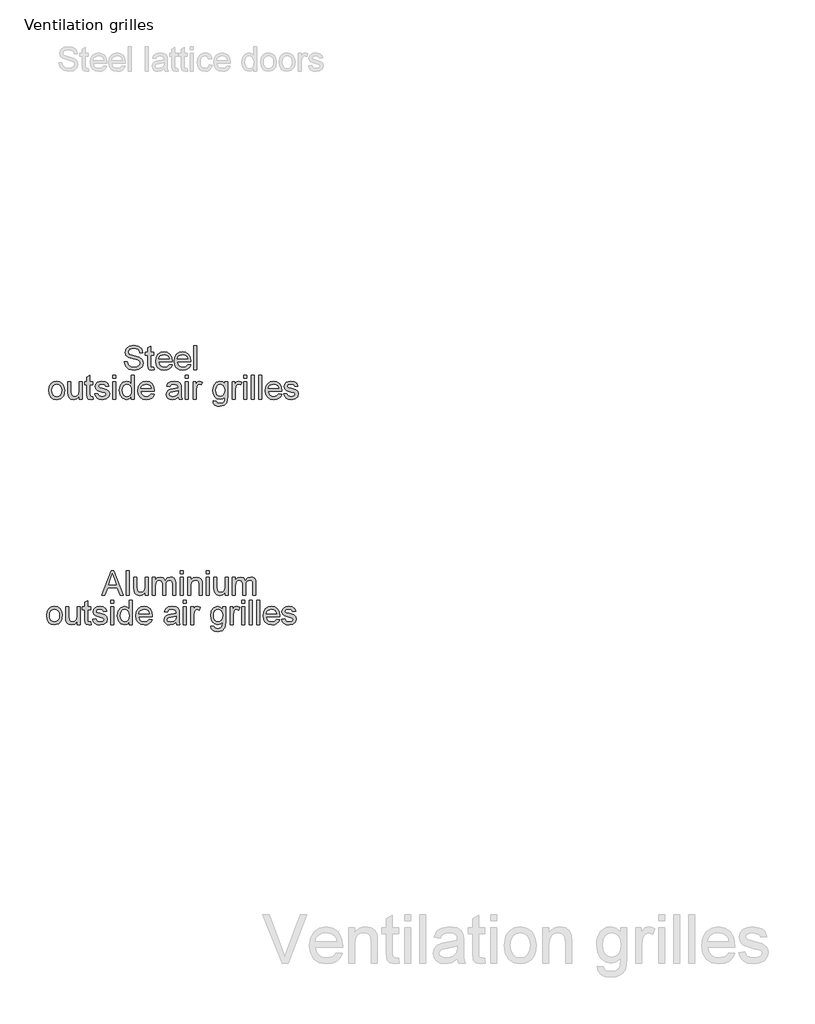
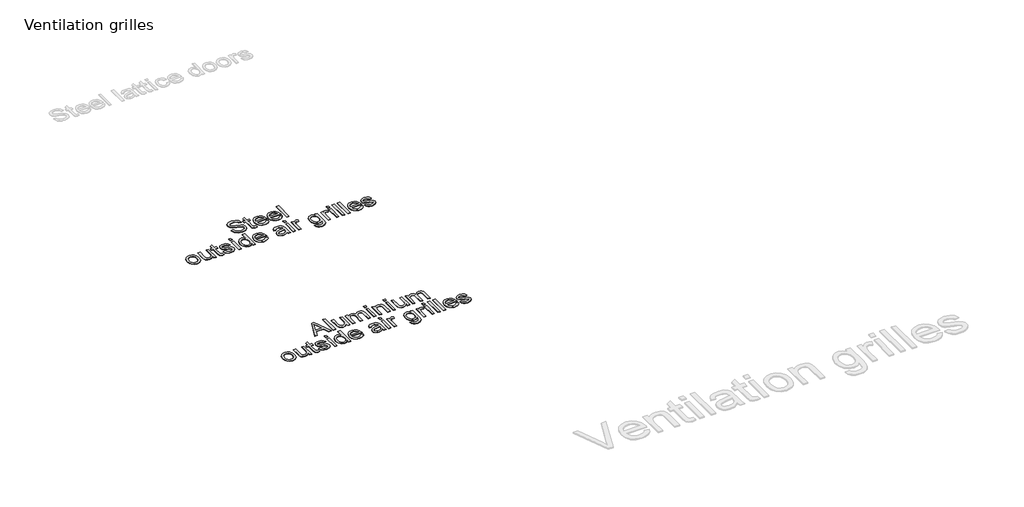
# One storey, part 2 of 10: 2 proxies.
"""IFC4 building model written with IfcOpenShell, lengths in millimetres."""

import ifcopenshell
import ifcopenshell.guid

model = None  # the IFC model being written
_history = None  # IfcOwnerHistory: only IFC2X3 demands one
_inside = {}  # id of a spatial element -> (the spatial element, [elements in it])
_under = {}  # id of a project, library or spatial element -> (it, [spatial elements below it])
_declared = {}  # id of a project -> (the project, [libraries it declares])
_typed = {}  # id of a type object -> (the type object, [elements of that type])
_made_of = {}  # id of a material, layer set ... -> (it, [elements and type objects made of it])


def new_model(schema):
    """Start an empty IFC model of exactly this schema.

    Asked for "IFC4X3", IfcOpenShell would pick the latest addendum, in which some entities
    have other attributes; the version numbers below select the first issue.
    IFC2X3 requires an IfcOwnerHistory on every rooted entity: one is made here for all.
    """
    global model, _history
    if schema == "IFC4X3":
        model = ifcopenshell.file(schema_version=(4, 3, 0, 0))
    else:
        model = ifcopenshell.file(schema=schema)
    _inside.clear()
    _under.clear()
    _declared.clear()
    _typed.clear()
    _made_of.clear()
    _history = None
    if model.schema == "IFC2X3":
        org = make("IfcOrganization", Name="unknown")
        user = make(
            "IfcPersonAndOrganization",
            ThePerson=make("IfcPerson", FamilyName="unknown"),
            TheOrganization=org,
        )
        app = make(
            "IfcApplication",
            ApplicationDeveloper=org,
            Version="unknown",
            ApplicationFullName="unknown",
            ApplicationIdentifier="unknown",
        )
        _history = make(
            "IfcOwnerHistory",
            OwningUser=user,
            OwningApplication=app,
            ChangeAction="ADDED",
            CreationDate=0,
        )
    return model


def make(cls, **values):
    """One entity of the class cls with the attributes given. An attribute that is None is left unset."""
    return model.create_entity(
        cls, **{name: value for name, value in values.items() if value is not None}
    )


def rooted(cls, **values):
    """An entity with a GlobalId (a new one), such as an element, a storey or a relation."""
    return make(cls, GlobalId=ifcopenshell.guid.new(), OwnerHistory=_history, **values)


def si_unit(unit_type, name, prefix=None):
    """IfcSIUnit, for example si_unit("LENGTHUNIT", "METRE", prefix="MILLI")."""
    return make("IfcSIUnit", UnitType=unit_type, Prefix=prefix, Name=name)


def assignment(units):
    """IfcUnitAssignment: the units of a project."""
    return None if units is None else make("IfcUnitAssignment", Units=units)


def point(xyz):
    """IfcCartesianPoint."""
    return None if xyz is None else make("IfcCartesianPoint", Coordinates=xyz)


def direction(xyz):
    """IfcDirection."""
    return None if xyz is None else make("IfcDirection", DirectionRatios=xyz)


def frame(location, z_axis=None, x_axis=None):
    """IfcAxis2Placement3D, a coordinate frame: its origin and axes. An axis left out is left unset."""
    return make(
        "IfcAxis2Placement3D",
        Location=point(location),
        Axis=direction(z_axis),
        RefDirection=direction(x_axis),
    )


def origin():
    """The frame at (0, 0, 0) with its axes left unset."""
    return frame((0.0, 0.0, 0.0))


def origin_with_axes():
    """The frame at (0, 0, 0) with the z axis (0, 0, 1) and the x axis (1, 0, 0) written out."""
    return frame((0.0, 0.0, 0.0), z_axis=(0.0, 0.0, 1.0), x_axis=(1.0, 0.0, 0.0))


def place(relative_to, where):
    """IfcLocalPlacement: puts the frame where relative to a parent placement (None: the world)."""
    return make(
        "IfcLocalPlacement", PlacementRelTo=relative_to, RelativePlacement=where
    )


def context(
    kind, dimensions, precision=None, world=None, true_north=None, identifier=None
):
    """IfcGeometricRepresentationContext, for example the 3D "Model" context."""
    return make(
        "IfcGeometricRepresentationContext",
        ContextIdentifier=identifier,
        ContextType=kind,
        CoordinateSpaceDimension=dimensions,
        Precision=precision,
        WorldCoordinateSystem=world,
        TrueNorth=true_north,
    )


def project(units=None, contexts=None):
    """IfcProject with its units and contexts."""
    return rooted(
        "IfcProject",
        Name="project",
        RepresentationContexts=contexts,
        UnitsInContext=assignment(units),
    )


def spatial(cls, under=None, at=None, **own):
    """A site, building, storey or space (cls), placed at a placement, below another one or the project."""
    s = rooted(cls, ObjectPlacement=at, **own)
    if under is not None:
        _under.setdefault(under.id(), (under, []))[1].append(s)
    return s


def polyline(points):
    """IfcPolyline through the points."""
    return make("IfcPolyline", Points=[point(p) for p in points])


def outline(outer, holes=None, kind="AREA"):
    """IfcArbitraryClosedProfileDef: a profile drawn as a closed curve; with holes, ...WithVoids."""
    if holes is None:
        return make("IfcArbitraryClosedProfileDef", ProfileType=kind, OuterCurve=outer)
    return make(
        "IfcArbitraryProfileDefWithVoids",
        ProfileType=kind,
        OuterCurve=outer,
        InnerCurves=holes,
    )


def extrude(swept, where, along, depth):
    """IfcExtrudedAreaSolid: the profile swept, set in the frame where, extruded along a direction by depth."""
    return make(
        "IfcExtrudedAreaSolid",
        SweptArea=swept,
        Position=where,
        ExtrudedDirection=direction(along),
        Depth=depth,
    )


def shape(context_of_items, identifier, shape_type, items):
    """IfcShapeRepresentation: the items that make up one representation, for example the "Body"."""
    return make(
        "IfcShapeRepresentation",
        ContextOfItems=context_of_items,
        RepresentationIdentifier=identifier,
        RepresentationType=shape_type,
        Items=items,
    )


def made_of(thing, what):
    """Note that an element or type object is made of a material, layer set ...; save() writes the relation."""
    if what is not None:
        _made_of.setdefault(what.id(), (what, []))[1].append(thing)
    return thing


def element(
    cls,
    number,
    at=None,
    inside=None,
    cuts=None,
    type_object=None,
    material=None,
    context=None,
    identifier="Body",
    shape_type=None,
    held_by="IfcProductDefinitionShape",
    body=None,
    shapes=None,
    **own,
):
    """One element of the class cls, such as IfcWall. Its Tag is "e" and its number.

    at: its placement. inside: the storey or other place that contains it. cuts: it is an
    opening in that element (IfcRelVoidsElement). A single representation is given by context,
    identifier, shape_type and body (its items); several are given by shapes. held_by: the class
    of the entity that holds the representations. save() writes the other relations.
    """
    e = rooted(cls, Tag="e%d" % number, ObjectPlacement=at, **own)
    if body is not None:
        shapes = [shape(context, identifier, shape_type, body)]
    if shapes is not None:
        e.Representation = make(held_by, Representations=shapes)
    if inside is not None:
        _inside.setdefault(inside.id(), (inside, []))[1].append(e)
    if cuts is not None:
        rooted(
            "IfcRelVoidsElement", RelatingBuildingElement=cuts, RelatedOpeningElement=e
        )
    if type_object is not None:
        _typed.setdefault(type_object.id(), (type_object, []))[1].append(e)
    return made_of(e, material)


def aggregate(whole, parts):
    """IfcRelAggregates: a whole, such as a stair, and the parts it consists of."""
    return rooted("IfcRelAggregates", RelatingObject=whole, RelatedObjects=parts)


def save(model, path):
    """Write the relations noted so far, then the file.

    IfcRelAggregates (storeys below a building ...), IfcRelContainedInSpatialStructure (elements
    in a storey), IfcRelDefinesByType, IfcRelAssociatesMaterial and IfcRelDeclares: one each for
    every whole, place, type object, material and project.
    """
    for whole, parts in _under.values():
        aggregate(whole, parts)
    for where, things in _inside.values():
        rooted(
            "IfcRelContainedInSpatialStructure",
            RelatedElements=things,
            RelatingStructure=where,
        )
    for kind, things in _typed.values():
        rooted("IfcRelDefinesByType", RelatedObjects=things, RelatingType=kind)
    for what, things in _made_of.values():
        rooted("IfcRelAssociatesMaterial", RelatedObjects=things, RelatingMaterial=what)
    for by, libraries in _declared.values():
        rooted("IfcRelDeclares", RelatingContext=by, RelatedDefinitions=libraries)
    model.write(path)


model = new_model("IFC4")

# Units and contexts
model_context = context("Model", 3, world=origin())
ifc_project = project(units=[si_unit("LENGTHUNIT", "METRE", prefix="MILLI")], contexts=[model_context])

# Site, building, storey
site = spatial("IfcSite", under=ifc_project)
building = spatial("IfcBuilding", under=site)
storey = spatial("IfcBuildingStorey", under=building, Name="Ventilation grilles", Elevation=0.0)

# Proxies
placement = place(None, origin())
element("IfcBuildingElementProxy", 1, Name="100mm", ObjectType="100mm", at=placement, inside=storey, context=model_context, shape_type="SweptSolid", body=[
    extrude(outline(polyline([(-4721.748228, -14949.7732962), (-4681.6490906, -14849.3169861), (-4670.9559872, -14849.3169861), (-4630.8568498, -14949.7732962), (-4644.1251271, -14949.7732962), (-4655.6275708, -14918.3806993), (-4697.0020325, -14918.3806993), (-4708.4799507, -14949.7732962), (-4721.748228, -14949.7732962)]), holes=[polyline([(-4692.3912448, -14905.8236605), (-4660.213833, -14905.8236605), (-4669.2637301, -14881.1265159), (-4676.3025389, -14861.8740249), (-4682.5565328, -14878.9682749), (-4692.3912448, -14905.8236605)])]), origin_with_axes(), (0.0, 0.0, 1.0), 2.0),
    extrude(outline(polyline([(-4619.0110495, -14949.7732962), (-4619.0110495, -14849.3169861), (-4606.4540107, -14849.3169861), (-4606.4540107, -14949.7732962), (-4619.0110495, -14949.7732962)])), origin_with_axes(), (0.0, 0.0, 1.0), 2.0),
    extrude(outline(polyline([(-4540.5295572, -14949.7732962), (-4540.5295572, -14937.0936301), (-4550.3642692, -14947.7806021), (-4563.1910881, -14951.3429261), (-4575.0001002, -14948.8413285), (-4583.142555, -14942.5628091), (-4586.8826886, -14933.3167083), (-4587.6184526, -14921.6425863), (-4587.6184526, -14876.0006935), (-4575.0614138, -14876.0006935), (-4575.0614138, -14915.7319489), (-4574.3011244, -14928.5342424), (-4569.3347174, -14936.0512978), (-4559.978252, -14938.7858873), (-4549.4936152, -14935.9899841), (-4542.5651709, -14928.3748268), (-4540.5295572, -14914.3830483), (-4540.5295572, -14876.0006935), (-4527.9725184, -14876.0006935), (-4527.9725184, -14949.7732962), (-4540.5295572, -14949.7732962)])), origin_with_axes(), (0.0, 0.0, 1.0), 2.0),
    extrude(outline(polyline([(-4510.7065901, -14949.7732962), (-4510.7065901, -14876.0006935), (-4498.1495514, -14876.0006935), (-4498.1495514, -14888.1407993), (-4489.5165872, -14878.1957227), (-4477.2293286, -14874.4310636), (-4464.6477643, -14878.2692991), (-4457.7315828, -14889.0237161), (-4447.933659, -14878.0792267), (-4435.5605613, -14874.4310636), (-4426.1213224, -14875.9485769), (-4419.1407615, -14880.5011165), (-4414.8273451, -14888.21131), (-4413.3895397, -14899.2017846), (-4413.3895397, -14949.7732962), (-4425.9465784, -14949.7732962), (-4425.9465784, -14904.5973872), (-4427.1115381, -14894.1127504), (-4431.3299183, -14888.9501397), (-4438.5036172, -14886.9881024), (-4450.8521895, -14892.015823), (-4454.5402065, -14898.5579911), (-4455.7695455, -14908.1290544), (-4455.7695455, -14949.7732962), (-4468.3265843, -14949.7732962), (-4468.3265843, -14903.1994356), (-4471.2328521, -14891.0348043), (-4480.7609957, -14886.9881024), (-4490.0561475, -14889.6859037), (-4496.236565, -14897.5831039), (-4498.1495514, -14912.5681638), (-4498.1495514, -14949.7732962), (-4510.7065901, -14949.7732962)])), origin_with_axes(), (0.0, 0.0, 1.0), 2.0),
    extrude(outline(polyline([(-4394.5539815, -14861.8740249), (-4394.5539815, -14849.3169861), (-4381.9969428, -14849.3169861), (-4381.9969428, -14861.8740249), (-4394.5539815, -14861.8740249)])), origin_with_axes(), (0.0, 0.0, 1.0), 2.0),
    extrude(outline(polyline([(-4394.5539815, -14949.7732962), (-4394.5539815, -14876.0006935), (-4381.9969428, -14876.0006935), (-4381.9969428, -14949.7732962), (-4394.5539815, -14949.7732962)])), origin_with_axes(), (0.0, 0.0, 1.0), 2.0),
    extrude(outline(polyline([(-4363.1613846, -14949.7732962), (-4363.1613846, -14876.0006935), (-4350.6043458, -14876.0006935), (-4350.6043458, -14886.3013893), (-4341.0026258, -14877.398645), (-4327.893764, -14874.4310636), (-4316.035701, -14876.8222966), (-4307.9422971, -14883.100816), (-4304.177638, -14892.3346541), (-4303.5154505, -14904.4747599), (-4303.5154505, -14949.7732962), (-4316.0724892, -14949.7732962), (-4316.0724892, -14906.1670171), (-4317.5194917, -14895.0569808), (-4322.6330515, -14889.1831316), (-4331.2537529, -14886.9881024), (-4344.8776494, -14891.9177211), (-4349.1726717, -14899.0607632), (-4350.6043458, -14910.6306519), (-4350.6043458, -14949.7732962), (-4363.1613846, -14949.7732962)])), origin_with_axes(), (0.0, 0.0, 1.0), 2.0),
    extrude(outline(polyline([(-4286.2495221, -14861.8740249), (-4286.2495221, -14849.3169861), (-4273.6924834, -14849.3169861), (-4273.6924834, -14861.8740249), (-4286.2495221, -14861.8740249)])), origin_with_axes(), (0.0, 0.0, 1.0), 2.0),
    extrude(outline(polyline([(-4286.2495221, -14949.7732962), (-4286.2495221, -14876.0006935), (-4273.6924834, -14876.0006935), (-4273.6924834, -14949.7732962), (-4286.2495221, -14949.7732962)])), origin_with_axes(), (0.0, 0.0, 1.0), 2.0),
    extrude(outline(polyline([(-4207.7680298, -14949.7732962), (-4207.7680298, -14937.0936301), (-4217.6027418, -14947.7806021), (-4230.4295607, -14951.3429261), (-4242.2385728, -14948.8413285), (-4250.3810276, -14942.5628091), (-4254.1211612, -14933.3167083), (-4254.8569252, -14921.6425863), (-4254.8569252, -14876.0006935), (-4242.2998865, -14876.0006935), (-4242.2998865, -14915.7319489), (-4241.539597, -14928.5342424), (-4236.5731901, -14936.0512978), (-4227.2167247, -14938.7858873), (-4216.7320878, -14935.9899841), (-4209.8036435, -14928.3748268), (-4207.7680298, -14914.3830483), (-4207.7680298, -14876.0006935), (-4195.2109911, -14876.0006935), (-4195.2109911, -14949.7732962), (-4207.7680298, -14949.7732962)])), origin_with_axes(), (0.0, 0.0, 1.0), 2.0),
    extrude(outline(polyline([(-4177.9450628, -14949.7732962), (-4177.9450628, -14876.0006935), (-4165.388024, -14876.0006935), (-4165.388024, -14888.1407993), (-4156.7550598, -14878.1957227), (-4144.4678012, -14874.4310636), (-4131.886237, -14878.2692991), (-4124.9700555, -14889.0237161), (-4115.1721317, -14878.0792267), (-4102.7990339, -14874.4310636), (-4093.359795, -14875.9485769), (-4086.3792342, -14880.5011165), (-4082.0658178, -14888.21131), (-4080.6280123, -14899.2017846), (-4080.6280123, -14949.7732962), (-4093.1850511, -14949.7732962), (-4093.1850511, -14904.5973872), (-4094.3500107, -14894.1127504), (-4098.5683909, -14888.9501397), (-4105.7420898, -14886.9881024), (-4118.0906622, -14892.015823), (-4121.7786792, -14898.5579911), (-4123.0080182, -14908.1290544), (-4123.0080182, -14949.7732962), (-4135.5650569, -14949.7732962), (-4135.5650569, -14903.1994356), (-4138.4713247, -14891.0348043), (-4147.9994684, -14886.9881024), (-4157.2946201, -14889.6859037), (-4163.4750376, -14897.5831039), (-4165.388024, -14912.5681638), (-4165.388024, -14949.7732962), (-4177.9450628, -14949.7732962)])), origin_with_axes(), (0.0, 0.0, 1.0), 2.0),
    extrude(outline(polyline([(-4950.202947, -15034.8618127), (-4947.4867516, -15017.0747182), (-4939.3381655, -15004.5728618), (-4929.2704615, -14998.4476265), (-4917.2161948, -14996.4058815), (-4904.0245596, -14998.8921506), (-4893.4878061, -15006.3509581), (-4886.5808217, -15018.1936926), (-4884.2784935, -15033.8317431), (-4888.3497209, -15056.1744429), (-4900.2077839, -15068.8173209), (-4917.2161948, -15073.3177439), (-4930.5672455, -15070.8406718), (-4941.0917363, -15063.4094555), (-4947.9251444, -15051.3184006), (-4950.202947, -15034.8618127)]), holes=[polyline([(-4937.6459083, -15034.8372872), (-4936.1927744, -15046.2017752), (-4931.8333727, -15054.2982448), (-4925.2728105, -15059.1450901), (-4917.2161948, -15060.7607052), (-4909.1963673, -15059.135893), (-4902.6480678, -15054.2614566), (-4898.2886662, -15046.0576881), (-4896.8355323, -15034.4448798), (-4898.2978632, -15023.4114856), (-4902.684856, -15015.4253806), (-4909.2423526, -15010.5785353), (-4917.2161948, -15008.9629202), (-4925.2728105, -15010.572404), (-4931.8333727, -15015.4008552), (-4936.1927744, -15023.4789306), (-4937.6459083, -15034.8372872)])]), origin_with_axes(), (0.0, 0.0, 1.0), 2.0),
    extrude(outline(polyline([(-4823.0629295, -15071.7481141), (-4823.0629295, -15059.068448), (-4832.8976415, -15069.7554199), (-4845.7244604, -15073.3177439), (-4857.5334725, -15070.8161464), (-4865.6759273, -15064.537627), (-4869.4160609, -15055.2915262), (-4870.1518249, -15043.6174042), (-4870.1518249, -14997.9755113), (-4857.5947861, -14997.9755113), (-4857.5947861, -15037.7067668), (-4856.8344967, -15050.5090602), (-4851.8680897, -15058.0261157), (-4842.5116243, -15060.7607052), (-4832.0269875, -15057.964802), (-4825.0985432, -15050.3496447), (-4823.0629295, -15036.3578661), (-4823.0629295, -14997.9755113), (-4810.5058907, -14997.9755113), (-4810.5058907, -15071.7481141), (-4823.0629295, -15071.7481141)])), origin_with_axes(), (0.0, 0.0, 1.0), 2.0),
    extrude(outline(polyline([(-4766.556255, -15061.2757399), (-4764.9866252, -15072.1159961), (-4774.3798788, -15073.3177439), (-4784.9013039, -15071.2330793), (-4790.1497537, -15065.7639003), (-4791.6703326, -15051.5146043), (-4791.6703326, -15010.5325501), (-4801.0881117, -15010.5325501), (-4801.0881117, -14997.9755113), (-4791.6703326, -14997.9755113), (-4791.6703326, -14980.0473954), (-4779.1132938, -14972.66523), (-4779.1132938, -14997.9755113), (-4766.556255, -14997.9755113), (-4766.556255, -15010.5325501), (-4779.1132938, -15010.5325501), (-4779.1132938, -15051.1467223), (-4778.4511062, -15057.6214455), (-4776.3051279, -15059.9145766), (-4772.025434, -15060.7607052), (-4766.556255, -15061.2757399)])), origin_with_axes(), (0.0, 0.0, 1.0), 2.0),
    extrude(outline(polyline([(-4758.7081058, -15049.7732962), (-4746.1510671, -15048.2036664), (-4740.3385315, -15057.5233436), (-4727.0212033, -15060.7607052), (-4714.2189099, -15057.7931237), (-4710.0495806, -15050.8278913), (-4714.2434353, -15045.187034), (-4727.1683561, -15041.6063159), (-4746.0774907, -15035.4626866), (-4754.3303101, -15028.2889877), (-4757.138476, -15018.1599701), (-4754.8821331, -15008.8035047), (-4748.726241, -15001.6543313), (-4740.7432017, -14997.9387231), (-4729.9397338, -14996.4058815), (-4714.6603683, -14998.8706908), (-4704.9482836, -15005.5416177), (-4700.6318015, -15016.8110695), (-4713.1888403, -15018.3806993), (-4717.9099926, -15011.4522551), (-4728.9587151, -15008.9629202), (-4740.9761937, -15011.3418905), (-4744.5814372, -15016.8846459), (-4743.0853838, -15020.5389404), (-4738.4010197, -15023.310318), (-4727.585289, -15025.9835939), (-4709.1544011, -15031.8942313), (-4700.5950133, -15038.5896836), (-4697.4925418, -15049.5035161), (-4701.1345736, -15061.5209946), (-4711.6437359, -15070.2397979), (-4727.1928816, -15073.3177439), (-4739.8541536, -15071.8339532), (-4749.094123, -15067.3825811), (-4755.2622778, -15060.0126784), (-4758.7081058, -15049.7732962)])), origin_with_axes(), (0.0, 0.0, 1.0), 2.0),
    extrude(outline(polyline([(-4683.3658732, -14983.8488427), (-4683.3658732, -14971.2918039), (-4670.8088344, -14971.2918039), (-4670.8088344, -14983.8488427), (-4683.3658732, -14983.8488427)])), origin_with_axes(), (0.0, 0.0, 1.0), 2.0),
    extrude(outline(polyline([(-4683.3658732, -15071.7481141), (-4683.3658732, -14997.9755113), (-4670.8088344, -14997.9755113), (-4670.8088344, -15071.7481141), (-4683.3658732, -15071.7481141)])), origin_with_axes(), (0.0, 0.0, 1.0), 2.0),
    extrude(outline(polyline([(-4606.4540107, -15071.7481141), (-4606.4540107, -15059.9023138), (-4614.7620125, -15069.9638864), (-4626.2460621, -15073.3177439), (-4641.7952078, -15068.4617016), (-4652.7826167, -15054.9113814), (-4656.6821658, -15034.9353891), (-4653.089185, -15014.947134), (-4642.3225053, -15001.1883474), (-4626.295113, -14996.4058815), (-4614.7190929, -14999.827184), (-4606.4540107, -15008.7176656), (-4606.4540107, -14971.2918039), (-4593.896972, -14971.2918039), (-4593.896972, -15071.7481141), (-4606.4540107, -15071.7481141)]), holes=[polyline([(-4644.1251271, -15034.8863382), (-4642.7087814, -15046.2446948), (-4638.4597443, -15054.3227702), (-4632.2854582, -15059.1512214), (-4625.0933652, -15060.7607052), (-4617.9043378, -15059.2247978), (-4611.8864015, -15054.6170758), (-4607.8121084, -15046.8517001), (-4606.4540107, -15035.8428313), (-4607.8366339, -15023.8069587), (-4611.9845034, -15015.4621688), (-4618.1557239, -15010.5877324), (-4625.6084, -15008.9629202), (-4632.8740694, -15010.523353), (-4638.8276263, -15015.2046514), (-4642.8007519, -15023.2459387), (-4644.1251271, -15034.8863382)])]), origin_with_axes(), (0.0, 0.0, 1.0), 2.0),
    extrude(outline(polyline([(-4523.4107817, -15049.7732962), (-4511.0989976, -15051.3429261), (-4515.5350413, -15060.6196837), (-4522.613704, -15067.5542593), (-4532.1755702, -15071.8768728), (-4544.0612244, -15073.3177439), (-4558.7948983, -15070.8314748), (-4570.1317951, -15063.3726673), (-4577.3606763, -15051.4256995), (-4579.7703034, -15035.4749494), (-4577.3361508, -15018.9877046), (-4570.0336932, -15006.6575264), (-4558.8500806, -14998.9687927), (-4544.7724629, -14996.4058815), (-4531.1332379, -14998.9626613), (-4520.2347338, -15006.6330009), (-4513.0886261, -15018.9386537), (-4510.7065901, -15035.401373), (-4510.7801665, -15038.7858873), (-4567.2132646, -15038.7858873), (-4565.0396951, -15048.1852723), (-4559.9905148, -15055.0953224), (-4552.7033856, -15059.3443595), (-4543.8159697, -15060.7607052), (-4531.5041856, -15058.1364803), (-4523.4107817, -15049.7732962)]), holes=[polyline([(-4567.2132646, -15026.2288485), (-4523.2636289, -15026.2288485), (-4528.2913495, -15014.8490322), (-4535.6122012, -15010.4344482), (-4544.8215138, -15008.9629202), (-4560.2848204, -15013.659547), (-4565.1500597, -15019.1501858), (-4567.2132646, -15026.2288485)])]), origin_with_axes(), (0.0, 0.0, 1.0), 2.0),
    extrude(outline(polyline([(-4411.8199098, -15062.330335), (-4423.9968039, -15070.8406718), (-4437.4490222, -15073.3177439), (-4447.9428561, -15071.8278218), (-4455.6837064, -15067.3580556), (-4460.4569753, -15060.5706328), (-4462.0480649, -15052.127741), (-4459.6445692, -15042.1949271), (-4453.3292616, -15034.98444), (-4444.5368819, -15030.8641617), (-4433.6721003, -15028.9757008), (-4411.8934862, -15024.6592187), (-4411.8199098, -15021.8633155), (-4415.2780006, -15012.5926893), (-4429.1594145, -15008.9629202), (-4441.8636061, -15011.3786787), (-4447.9213963, -15019.9503292), (-4460.4784351, -15018.3806993), (-4455.0460443, -15006.1179661), (-4444.1076863, -14998.9320045), (-4427.5407338, -14996.4058815), (-4412.3226819, -14998.6376989), (-4403.7265059, -15004.241768), (-4399.8760077, -15012.7643675), (-4399.2628711, -15023.7517764), (-4399.2628711, -15039.3744985), (-4398.6252089, -15061.1899008), (-4396.1236114, -15071.7481141), (-4408.6806501, -15071.7481141), (-4411.8199098, -15062.330335)]), holes=[polyline([(-4411.8199098, -15037.2162575), (-4432.077945, -15041.0667557), (-4442.881413, -15043.1023694), (-4447.7742435, -15046.4133073), (-4449.4910261, -15051.2448242), (-4445.7508925, -15058.0383784), (-4434.7757463, -15060.7607052), (-4422.0715548, -15057.7563355), (-4413.880049, -15050.4845348), (-4411.8934862, -15040.7724501), (-4411.8199098, -15037.2162575)])]), origin_with_axes(), (0.0, 0.0, 1.0), 2.0),
    extrude(outline(polyline([(-4381.9969428, -15071.7481141), (-4381.9969428, -14997.9755113), (-4369.439904, -14997.9755113), (-4369.439904, -15071.7481141), (-4381.9969428, -15071.7481141)])), origin_with_axes(), (0.0, 0.0, 1.0), 2.0),
    extrude(outline(polyline([(-4381.9969428, -14983.8488427), (-4381.9969428, -14971.2918039), (-4369.439904, -14971.2918039), (-4369.439904, -14983.8488427), (-4381.9969428, -14983.8488427)])), origin_with_axes(), (0.0, 0.0, 1.0), 2.0),
    extrude(outline(polyline([(-4350.6043458, -15071.7481141), (-4350.6043458, -14997.9755113), (-4339.6169369, -14997.9755113), (-4339.6169369, -15008.8893438), (-4331.8178386, -14998.8339026), (-4323.9696894, -14996.4058815), (-4311.3635997, -15000.2809051), (-4315.5574544, -15011.5380942), (-4324.3866223, -15008.9629202), (-4331.4867448, -15011.4399923), (-4336.0116934, -15018.3071229), (-4338.0473071, -15032.9733518), (-4338.0473071, -15071.7481141), (-4350.6043458, -15071.7481141)])), origin_with_axes(), (0.0, 0.0, 1.0), 2.0),
    extrude(outline(polyline([(-4267.413964, -15078.0266335), (-4254.8569252, -15079.5962633), (-4250.7856978, -15086.2181392), (-4238.596541, -15089.0140424), (-4225.7451967, -15085.8502572), (-4219.6138301, -15076.9720384), (-4218.7554388, -15062.330335), (-4227.5968694, -15069.3936693), (-4238.3758118, -15071.7481141), (-4251.3221924, -15069.0073932), (-4260.9760291, -15060.7852306), (-4266.9817026, -15048.7309639), (-4268.9835938, -15034.4939307), (-4265.390613, -15015.0329732), (-4254.9918153, -15001.2619238), (-4238.9889485, -14996.4058815), (-4227.7869417, -14999.1527337), (-4218.7554388, -15007.3932904), (-4218.7554388, -14997.9755113), (-4206.1984, -14997.9755113), (-4206.1984, -15061.6681474), (-4209.6319653, -15086.0587237), (-4220.5090096, -15097.4017519), (-4238.8417957, -15101.5710812), (-4250.5251147, -15100.1026189), (-4259.7252303, -15095.697232), (-4265.6266706, -15088.3426577), (-4267.413964, -15078.0266335)]), holes=[polyline([(-4256.4265551, -15033.6355394), (-4255.0868515, -15045.1533115), (-4251.0677407, -15053.0719715), (-4245.0252789, -15057.6612993), (-4237.6155224, -15059.1910753), (-4230.2609482, -15057.6704964), (-4224.1878296, -15053.1087597), (-4220.1135365, -15045.2912673), (-4218.7554388, -15034.0034214), (-4220.1533903, -15023.11718), (-4224.3472451, -15015.2782278), (-4230.5092685, -15010.5417471), (-4237.8117261, -15008.9629202), (-4244.9823593, -15010.5172217), (-4250.9941643, -15015.180126), (-4255.0684574, -15022.9025822), (-4256.4265551, -15033.6355394)])]), origin_with_axes(), (0.0, 0.0, 1.0), 2.0),
    extrude(outline(polyline([(-4187.3628418, -15071.7481141), (-4187.3628418, -14997.9755113), (-4176.3754329, -14997.9755113), (-4176.3754329, -15008.8893438), (-4168.5763346, -14998.8339026), (-4160.7281854, -14996.4058815), (-4148.1220957, -15000.2809051), (-4152.3159504, -15011.5380942), (-4161.1451183, -15008.9629202), (-4168.2452408, -15011.4399923), (-4172.7701894, -15018.3071229), (-4174.8058031, -15032.9733518), (-4174.8058031, -15071.7481141), (-4187.3628418, -15071.7481141)])), origin_with_axes(), (0.0, 0.0, 1.0), 2.0),
    extrude(outline(polyline([(-4140.2739465, -15071.7481141), (-4140.2739465, -14997.9755113), (-4127.7169077, -14997.9755113), (-4127.7169077, -15071.7481141), (-4140.2739465, -15071.7481141)])), origin_with_axes(), (0.0, 0.0, 1.0), 2.0),
    extrude(outline(polyline([(-4140.2739465, -14983.8488427), (-4140.2739465, -14971.2918039), (-4127.7169077, -14971.2918039), (-4127.7169077, -14983.8488427), (-4140.2739465, -14983.8488427)])), origin_with_axes(), (0.0, 0.0, 1.0), 2.0),
    extrude(outline(polyline([(-4108.8813495, -15071.7481141), (-4108.8813495, -14971.2918039), (-4096.3243108, -14971.2918039), (-4096.3243108, -15071.7481141), (-4108.8813495, -15071.7481141)])), origin_with_axes(), (0.0, 0.0, 1.0), 2.0),
    extrude(outline(polyline([(-4077.4887526, -15071.7481141), (-4077.4887526, -14971.2918039), (-4064.9317138, -14971.2918039), (-4064.9317138, -15071.7481141), (-4077.4887526, -15071.7481141)])), origin_with_axes(), (0.0, 0.0, 1.0), 2.0),
    extrude(outline(polyline([(-3994.4455236, -15049.7732962), (-3982.1337395, -15051.3429261), (-3986.5697832, -15060.6196837), (-3993.6484459, -15067.5542593), (-4003.2103121, -15071.8768728), (-4015.0959662, -15073.3177439), (-4029.8296401, -15070.8314748), (-4041.166537, -15063.3726673), (-4048.3954182, -15051.4256995), (-4050.8050452, -15035.4749494), (-4048.3708927, -15018.9877046), (-4041.0684351, -15006.6575264), (-4029.8848224, -14998.9687927), (-4015.8072048, -14996.4058815), (-4002.1679798, -14998.9626613), (-3991.2694757, -15006.6330009), (-3984.1233679, -15018.9386537), (-3981.741332, -15035.401373), (-3981.8149084, -15038.7858873), (-4038.2480065, -15038.7858873), (-4036.074437, -15048.1852723), (-4031.0252566, -15055.0953224), (-4023.7381274, -15059.3443595), (-4014.8507116, -15060.7607052), (-4002.5389275, -15058.1364803), (-3994.4455236, -15049.7732962)]), holes=[polyline([(-4038.2480065, -15026.2288485), (-3994.2983708, -15026.2288485), (-3999.3260914, -15014.8490322), (-4006.6469431, -15010.4344482), (-4015.8562557, -15008.9629202), (-4031.3195622, -15013.659547), (-4036.1848016, -15019.1501858), (-4038.2480065, -15026.2288485)])]), origin_with_axes(), (0.0, 0.0, 1.0), 2.0),
    extrude(outline(polyline([(-3973.8931828, -15049.7732962), (-3961.336144, -15048.2036664), (-3955.5236085, -15057.5233436), (-3942.2062803, -15060.7607052), (-3929.4039868, -15057.7931237), (-3925.2346575, -15050.8278913), (-3929.4285123, -15045.187034), (-3942.3534331, -15041.6063159), (-3961.2625676, -15035.4626866), (-3969.515387, -15028.2889877), (-3972.3235529, -15018.1599701), (-3970.06721, -15008.8035047), (-3963.911318, -15001.6543313), (-3955.9282787, -14997.9387231), (-3945.1248108, -14996.4058815), (-3929.8454452, -14998.8706908), (-3920.1333605, -15005.5416177), (-3915.8168785, -15016.8110695), (-3928.3739172, -15018.3806993), (-3933.0950695, -15011.4522551), (-3944.1437921, -15008.9629202), (-3956.1612706, -15011.3418905), (-3959.7665142, -15016.8846459), (-3958.2704607, -15020.5389404), (-3953.5860966, -15023.310318), (-3942.770366, -15025.9835939), (-3924.339478, -15031.8942313), (-3915.7800903, -15038.5896836), (-3912.6776188, -15049.5035161), (-3916.3196505, -15061.5209946), (-3926.8288129, -15070.2397979), (-3942.3779585, -15073.3177439), (-3955.0392305, -15071.8339532), (-3964.2792, -15067.3825811), (-3970.4473548, -15060.0126784), (-3973.8931828, -15049.7732962)])), origin_with_axes(), (0.0, 0.0, 1.0), 2.0),
])
element("IfcBuildingElementProxy", 2, Name="100mm", ObjectType="100mm", at=placement, inside=storey, context=model_context, shape_type="SweptSolid", body=[
    extrude(outline(polyline([(-4627.4295755, -13979.6983384), (-4614.8725368, -13979.6983384), (-4610.8258348, -13992.2676399), (-4600.9420719, -14000.213891), (-4585.8834356, -14003.2427861), (-4572.7623111, -14000.949655), (-4564.2887624, -13994.6466101), (-4561.505122, -13986.2221124), (-4563.5897866, -13978.3862259), (-4572.1246489, -13972.684055), (-4590.4083841, -13967.8893263), (-4610.0900708, -13961.6966461), (-4620.7709114, -13952.3524434), (-4624.2903158, -13939.868981), (-4619.9370456, -13925.6564733), (-4607.2205913, -13915.6255575), (-4588.6057623, -13912.204255), (-4568.7401346, -13915.7849731), (-4555.4963828, -13926.3063981), (-4550.5177131, -13942.0272221), (-4563.0747519, -13942.0272221), (-4565.3801457, -13934.5346921), (-4570.1871371, -13929.1268268), (-4588.115253, -13924.7612938), (-4606.0924198, -13929.0777758), (-4611.7332771, -13939.501099), (-4607.7356261, -13948.2076396), (-4587.2323362, -13955.221923), (-4565.0122637, -13961.5249678), (-4552.8598951, -13971.7030363), (-4548.9480832, -13985.9032814), (-4553.4485063, -14000.9251295), (-4566.3979525, -14011.8880129), (-4585.3929262, -14015.7998248), (-4607.8214652, -14011.5814446), (-4622.0094475, -13998.8772531), (-4627.4295755, -13979.6983384)])), origin_with_axes(), (0.0, 0.0, 1.0), 2.0),
    extrude(outline(polyline([(-4504.9984475, -14003.7578209), (-4503.4288177, -14014.598077), (-4512.8220713, -14015.7998248), (-4523.3434964, -14013.7151602), (-4528.5919462, -14008.2459812), (-4530.1125251, -13993.9966853), (-4530.1125251, -13953.014631), (-4539.5303042, -13953.014631), (-4539.5303042, -13940.4575922), (-4530.1125251, -13940.4575922), (-4530.1125251, -13922.5294763), (-4517.5554863, -13915.147311), (-4517.5554863, -13940.4575922), (-4504.9984475, -13940.4575922), (-4504.9984475, -13953.014631), (-4517.5554863, -13953.014631), (-4517.5554863, -13993.6288033), (-4516.8932987, -14000.1035264), (-4514.7473204, -14002.3966575), (-4510.4676265, -14003.2427861), (-4504.9984475, -14003.7578209)])), origin_with_axes(), (0.0, 0.0, 1.0), 2.0),
    extrude(outline(polyline([(-4440.7907767, -13992.2553771), (-4428.4789925, -13993.825007), (-4432.9150363, -14003.1017646), (-4439.993699, -14010.0363402), (-4449.5555652, -14014.3589537), (-4461.4412193, -14015.7998248), (-4476.1748932, -14013.3135557), (-4487.51179, -14005.8547482), (-4494.7406712, -13993.9077804), (-4497.1502983, -13977.9570303), (-4494.7161458, -13961.4697855), (-4487.4136882, -13949.1396073), (-4476.2300755, -13941.4508736), (-4462.1524578, -13938.8879624), (-4448.5132329, -13941.4447422), (-4437.6147288, -13949.1150818), (-4430.468621, -13961.4207346), (-4428.0865851, -13977.8834539), (-4428.1601615, -13981.2679682), (-4484.5932595, -13981.2679682), (-4482.4196901, -13990.6673532), (-4477.3705097, -13997.5774033), (-4470.0833805, -14001.8264404), (-4461.1959647, -14003.2427861), (-4448.8841805, -14000.6185612), (-4440.7907767, -13992.2553771)]), holes=[polyline([(-4484.5932595, -13968.7109294), (-4440.6436239, -13968.7109294), (-4445.6713445, -13957.3311131), (-4452.9921962, -13952.9165291), (-4462.2015088, -13951.4450011), (-4477.6648153, -13956.1416279), (-4482.5300547, -13961.6322667), (-4484.5932595, -13968.7109294)])]), origin_with_axes(), (0.0, 0.0, 1.0), 2.0),
    extrude(outline(polyline([(-4363.8789142, -13992.2553771), (-4351.5671301, -13993.825007), (-4356.0031738, -14003.1017646), (-4363.0818365, -14010.0363402), (-4372.6437027, -14014.3589537), (-4384.5293569, -14015.7998248), (-4399.2630308, -14013.3135557), (-4410.5999276, -14005.8547482), (-4417.8288088, -13993.9077804), (-4420.2384359, -13977.9570303), (-4417.8042833, -13961.4697855), (-4410.5018257, -13949.1396073), (-4399.3182131, -13941.4508736), (-4385.2405954, -13938.8879624), (-4371.6013704, -13941.4447422), (-4360.7028663, -13949.1150818), (-4353.5567585, -13961.4207346), (-4351.1747226, -13977.8834539), (-4351.248299, -13981.2679682), (-4407.6813971, -13981.2679682), (-4405.5078276, -13990.6673532), (-4400.4586472, -13997.5774033), (-4393.1715181, -14001.8264404), (-4384.2841022, -14003.2427861), (-4371.9723181, -14000.6185612), (-4363.8789142, -13992.2553771)]), holes=[polyline([(-4407.6813971, -13968.7109294), (-4363.7317614, -13968.7109294), (-4368.759482, -13957.3311131), (-4376.0803337, -13952.9165291), (-4385.2896463, -13951.4450011), (-4400.7529528, -13956.1416279), (-4405.6181922, -13961.6322667), (-4407.6813971, -13968.7109294)])]), origin_with_axes(), (0.0, 0.0, 1.0), 2.0),
    extrude(outline(polyline([(-4338.6176839, -14014.230195), (-4338.6176839, -13913.7738848), (-4326.0606451, -13913.7738848), (-4326.0606451, -14014.230195), (-4338.6176839, -14014.230195)])), origin_with_axes(), (0.0, 0.0, 1.0), 2.0),
    extrude(outline(polyline([(-4941.3555448, -14099.3187114), (-4938.6393494, -14081.531617), (-4930.4907632, -14069.0297605), (-4920.4230592, -14062.9045253), (-4908.3687925, -14060.8627802), (-4895.1771573, -14063.3490494), (-4884.6404038, -14070.8078568), (-4877.7334194, -14082.6505914), (-4875.4310912, -14098.2886419), (-4879.5023186, -14120.6313417), (-4891.3603816, -14133.2742196), (-4908.3687925, -14137.7746427), (-4921.7198433, -14135.2975706), (-4932.244334, -14127.8663543), (-4939.0777421, -14115.7752994), (-4941.3555448, -14099.3187114)]), holes=[polyline([(-4928.798506, -14099.294186), (-4927.3453721, -14110.6586739), (-4922.9859705, -14118.7551435), (-4916.4254082, -14123.6019888), (-4908.3687925, -14125.2176039), (-4900.348965, -14123.5927918), (-4893.8006655, -14118.7183553), (-4889.4412639, -14110.5145868), (-4887.98813, -14098.9017785), (-4889.4504609, -14087.8683843), (-4893.8374537, -14079.8822794), (-4900.3949503, -14075.0354341), (-4908.3687925, -14073.419819), (-4916.4254082, -14075.0293027), (-4922.9859705, -14079.8577539), (-4927.3453721, -14087.9358294), (-4928.798506, -14099.294186)])]), origin_with_axes(), (0.0, 0.0, 1.0), 2.0),
    extrude(outline(polyline([(-4814.2155272, -14136.2050128), (-4814.2155272, -14123.5253467), (-4824.0502392, -14134.2123187), (-4836.8770581, -14137.7746427), (-4848.6860702, -14135.2730451), (-4856.828525, -14128.9945257), (-4860.5686586, -14119.7484249), (-4861.3044226, -14108.0743029), (-4861.3044226, -14062.4324101), (-4848.7473838, -14062.4324101), (-4848.7473838, -14102.1636655), (-4847.9870944, -14114.965959), (-4843.0206874, -14122.4830144), (-4833.664222, -14125.2176039), (-4823.1795852, -14122.4217007), (-4816.2511409, -14114.8065434), (-4814.2155272, -14100.8147649), (-4814.2155272, -14062.4324101), (-4801.6584885, -14062.4324101), (-4801.6584885, -14136.2050128), (-4814.2155272, -14136.2050128)])), origin_with_axes(), (0.0, 0.0, 1.0), 2.0),
    extrude(outline(polyline([(-4757.7088528, -14125.7326387), (-4756.1392229, -14136.5728948), (-4765.5324765, -14137.7746427), (-4776.0539016, -14135.689978), (-4781.3023514, -14130.220799), (-4782.8229303, -14115.9715031), (-4782.8229303, -14074.9894488), (-4792.2407094, -14074.9894488), (-4792.2407094, -14062.4324101), (-4782.8229303, -14062.4324101), (-4782.8229303, -14044.5042942), (-4770.2658915, -14037.1221288), (-4770.2658915, -14062.4324101), (-4757.7088528, -14062.4324101), (-4757.7088528, -14074.9894488), (-4770.2658915, -14074.9894488), (-4770.2658915, -14115.6036211), (-4769.6037039, -14122.0783442), (-4767.4577256, -14124.3714753), (-4763.1780318, -14125.2176039), (-4757.7088528, -14125.7326387)])), origin_with_axes(), (0.0, 0.0, 1.0), 2.0),
    extrude(outline(polyline([(-4749.8607035, -14114.230195), (-4737.3036648, -14112.6605651), (-4731.4911292, -14121.9802424), (-4718.173801, -14125.2176039), (-4705.3715076, -14122.2500225), (-4701.2021783, -14115.28479), (-4705.3960331, -14109.6439328), (-4718.3209538, -14106.0632147), (-4737.2300884, -14099.9195854), (-4745.4829078, -14092.7458865), (-4748.2910737, -14082.6168689), (-4746.0347308, -14073.2604035), (-4739.8788387, -14066.11123), (-4731.8957994, -14062.3956219), (-4721.0923315, -14060.8627802), (-4705.812966, -14063.3275896), (-4696.1008813, -14069.9985164), (-4691.7843992, -14081.2679682), (-4704.341438, -14082.8375981), (-4709.0625903, -14075.9091538), (-4720.1113129, -14073.419819), (-4732.1287914, -14075.7987892), (-4735.7340349, -14081.3415446), (-4734.2379815, -14084.9958391), (-4729.5536174, -14087.7672168), (-4718.7378867, -14090.4404926), (-4700.3069988, -14096.35113), (-4691.747611, -14103.0465823), (-4688.6451395, -14113.9604149), (-4692.2871713, -14125.9778934), (-4702.7963336, -14134.6966967), (-4718.3454793, -14137.7746427), (-4731.0067513, -14136.290852), (-4740.2467207, -14131.8394798), (-4746.4148755, -14124.4695772), (-4749.8607035, -14114.230195)])), origin_with_axes(), (0.0, 0.0, 1.0), 2.0),
    extrude(outline(polyline([(-4674.5184709, -14048.3057414), (-4674.5184709, -14035.7487027), (-4661.9614322, -14035.7487027), (-4661.9614322, -14048.3057414), (-4674.5184709, -14048.3057414)])), origin_with_axes(), (0.0, 0.0, 1.0), 2.0),
    extrude(outline(polyline([(-4674.5184709, -14136.2050128), (-4674.5184709, -14062.4324101), (-4661.9614322, -14062.4324101), (-4661.9614322, -14136.2050128), (-4674.5184709, -14136.2050128)])), origin_with_axes(), (0.0, 0.0, 1.0), 2.0),
    extrude(outline(polyline([(-4597.6066085, -14136.2050128), (-4597.6066085, -14124.3592126), (-4605.9146102, -14134.4207852), (-4617.3986598, -14137.7746427), (-4632.9478055, -14132.9186003), (-4643.9352144, -14119.3682802), (-4647.8347635, -14099.3922878), (-4644.2417827, -14079.4040328), (-4633.475103, -14065.6452462), (-4617.4477107, -14060.8627802), (-4605.8716906, -14064.2840828), (-4597.6066085, -14073.1745643), (-4597.6066085, -14035.7487027), (-4585.0495697, -14035.7487027), (-4585.0495697, -14136.2050128), (-4597.6066085, -14136.2050128)]), holes=[polyline([(-4635.2777248, -14099.3432369), (-4633.8613791, -14110.7015935), (-4629.612342, -14118.779669), (-4623.4380559, -14123.6081202), (-4616.2459629, -14125.2176039), (-4609.0569356, -14123.6816966), (-4603.0389993, -14119.0739746), (-4598.9647062, -14111.3085988), (-4597.6066085, -14100.2997301), (-4598.9892316, -14088.2638575), (-4603.1371011, -14079.9190676), (-4609.3083216, -14075.0446311), (-4616.7609977, -14073.419819), (-4624.0266671, -14074.9802518), (-4629.980224, -14079.6615502), (-4633.9533496, -14087.7028374), (-4635.2777248, -14099.3432369)])]), origin_with_axes(), (0.0, 0.0, 1.0), 2.0),
    extrude(outline(polyline([(-4514.5633794, -14114.230195), (-4502.2515953, -14115.7998248), (-4506.687639, -14125.0765825), (-4513.7663018, -14132.0111581), (-4523.328168, -14136.3337715), (-4535.2138221, -14137.7746427), (-4549.947496, -14135.2883735), (-4561.2843928, -14127.8295661), (-4568.513274, -14115.8825983), (-4570.9229011, -14099.9318481), (-4568.4887485, -14083.4446034), (-4561.1862909, -14071.1144252), (-4550.0026783, -14063.4256915), (-4535.9250606, -14060.8627802), (-4522.2858356, -14063.4195601), (-4511.3873315, -14071.0898997), (-4504.2412238, -14083.3955524), (-4501.8591879, -14099.8582717), (-4501.9327643, -14103.2427861), (-4558.3658623, -14103.2427861), (-4556.1922929, -14112.642171), (-4551.1431125, -14119.5522212), (-4543.8559833, -14123.8012582), (-4534.9685674, -14125.2176039), (-4522.6567833, -14122.593379), (-4514.5633794, -14114.230195)]), holes=[polyline([(-4558.3658623, -14090.6857473), (-4514.4162266, -14090.6857473), (-4519.4439472, -14079.3059309), (-4526.7647989, -14074.891347), (-4535.9741115, -14073.419819), (-4551.4374181, -14078.1164458), (-4556.3026575, -14083.6070846), (-4558.3658623, -14090.6857473)])]), origin_with_axes(), (0.0, 0.0, 1.0), 2.0),
    extrude(outline(polyline([(-4402.9725076, -14126.7872338), (-4415.1494016, -14135.2975706), (-4428.6016199, -14137.7746427), (-4439.0954538, -14136.2847206), (-4446.8363041, -14131.8149544), (-4451.609573, -14125.0275315), (-4453.2006626, -14116.5846398), (-4450.7971669, -14106.6518259), (-4444.4818593, -14099.4413388), (-4435.6894797, -14095.3210604), (-4424.8246981, -14093.4325995), (-4403.0460839, -14089.1161174), (-4402.9725076, -14086.3202143), (-4406.4305983, -14077.049588), (-4420.3120123, -14073.419819), (-4433.0162038, -14075.8355774), (-4439.073994, -14084.4072279), (-4451.6310328, -14082.8375981), (-4446.198642, -14070.5748649), (-4435.260284, -14063.3889033), (-4418.6933315, -14060.8627802), (-4403.4752796, -14063.0945977), (-4394.8791037, -14068.6986667), (-4391.0286054, -14077.2212663), (-4390.4154688, -14088.2086752), (-4390.4154688, -14103.8313973), (-4389.7778067, -14125.6467996), (-4387.2762091, -14136.2050128), (-4399.8332479, -14136.2050128), (-4402.9725076, -14126.7872338)]), holes=[polyline([(-4402.9725076, -14101.6731562), (-4423.2305428, -14105.5236544), (-4434.0340107, -14107.5592681), (-4438.9268412, -14110.8702061), (-4440.6436239, -14115.701723), (-4436.9034902, -14122.4952771), (-4425.928344, -14125.2176039), (-4413.2241525, -14122.2132343), (-4405.0326467, -14114.9414335), (-4403.0460839, -14105.2293488), (-4402.9725076, -14101.6731562)])]), origin_with_axes(), (0.0, 0.0, 1.0), 2.0),
    extrude(outline(polyline([(-4373.1495405, -14048.3057414), (-4373.1495405, -14035.7487027), (-4360.5925017, -14035.7487027), (-4360.5925017, -14048.3057414), (-4373.1495405, -14048.3057414)])), origin_with_axes(), (0.0, 0.0, 1.0), 2.0),
    extrude(outline(polyline([(-4373.1495405, -14136.2050128), (-4373.1495405, -14062.4324101), (-4360.5925017, -14062.4324101), (-4360.5925017, -14136.2050128), (-4373.1495405, -14136.2050128)])), origin_with_axes(), (0.0, 0.0, 1.0), 2.0),
    extrude(outline(polyline([(-4341.7569436, -14136.2050128), (-4341.7569436, -14062.4324101), (-4330.7695346, -14062.4324101), (-4330.7695346, -14073.3462426), (-4322.9704363, -14063.2908014), (-4315.1222871, -14060.8627802), (-4302.5161974, -14064.7378039), (-4306.7100521, -14075.994993), (-4315.53922, -14073.419819), (-4322.6393425, -14075.8968911), (-4327.1642911, -14082.7640217), (-4329.1999048, -14097.4302505), (-4329.1999048, -14136.2050128), (-4341.7569436, -14136.2050128)])), origin_with_axes(), (0.0, 0.0, 1.0), 2.0),
    extrude(outline(polyline([(-4258.5665617, -14142.4835322), (-4246.0095229, -14144.0531621), (-4241.9382955, -14150.675038), (-4229.7491388, -14153.4709411), (-4216.8977944, -14150.307156), (-4210.7664278, -14141.4289372), (-4209.9080365, -14126.7872338), (-4218.7494671, -14133.8505681), (-4229.5284096, -14136.2050128), (-4242.4747901, -14133.464292), (-4252.1286268, -14125.2421294), (-4258.1343004, -14113.1878627), (-4260.1361916, -14098.9508295), (-4256.5432107, -14079.4898719), (-4246.144413, -14065.7188226), (-4230.1415462, -14060.8627802), (-4218.9395395, -14063.6096324), (-4209.9080365, -14071.8501891), (-4209.9080365, -14062.4324101), (-4197.3509977, -14062.4324101), (-4197.3509977, -14126.1250462), (-4200.784563, -14150.5156224), (-4211.6616073, -14161.8586506), (-4229.9943934, -14166.0279799), (-4241.6777124, -14164.5595176), (-4250.877828, -14160.1541307), (-4256.7792684, -14152.7995565), (-4258.5665617, -14142.4835322)]), holes=[polyline([(-4247.5791528, -14098.0924381), (-4246.2394492, -14109.6102103), (-4242.2203384, -14117.5288702), (-4236.1778766, -14122.1181981), (-4228.7681201, -14123.6479741), (-4221.4135459, -14122.1273951), (-4215.3404273, -14117.5656584), (-4211.2661342, -14109.748166), (-4209.9080365, -14098.4603201), (-4211.3059881, -14087.5740788), (-4215.4998428, -14079.7351266), (-4221.6618662, -14074.9986459), (-4228.9643238, -14073.419819), (-4236.1349571, -14074.9741204), (-4242.146762, -14079.6370247), (-4246.2210551, -14087.3594809), (-4247.5791528, -14098.0924381)])]), origin_with_axes(), (0.0, 0.0, 1.0), 2.0),
    extrude(outline(polyline([(-4178.5154396, -14136.2050128), (-4178.5154396, -14062.4324101), (-4167.5280306, -14062.4324101), (-4167.5280306, -14073.3462426), (-4159.7289323, -14063.2908014), (-4151.8807831, -14060.8627802), (-4139.2746934, -14064.7378039), (-4143.4685482, -14075.994993), (-4152.297716, -14073.419819), (-4159.3978385, -14075.8968911), (-4163.9227871, -14082.7640217), (-4165.9584008, -14097.4302505), (-4165.9584008, -14136.2050128), (-4178.5154396, -14136.2050128)])), origin_with_axes(), (0.0, 0.0, 1.0), 2.0),
    extrude(outline(polyline([(-4131.4265442, -14048.3057414), (-4131.4265442, -14035.7487027), (-4118.8695054, -14035.7487027), (-4118.8695054, -14048.3057414), (-4131.4265442, -14048.3057414)])), origin_with_axes(), (0.0, 0.0, 1.0), 2.0),
    extrude(outline(polyline([(-4131.4265442, -14136.2050128), (-4131.4265442, -14062.4324101), (-4118.8695054, -14062.4324101), (-4118.8695054, -14136.2050128), (-4131.4265442, -14136.2050128)])), origin_with_axes(), (0.0, 0.0, 1.0), 2.0),
    extrude(outline(polyline([(-4100.0339473, -14136.2050128), (-4100.0339473, -14035.7487027), (-4087.4769085, -14035.7487027), (-4087.4769085, -14136.2050128), (-4100.0339473, -14136.2050128)])), origin_with_axes(), (0.0, 0.0, 1.0), 2.0),
    extrude(outline(polyline([(-4068.6413503, -14136.2050128), (-4068.6413503, -14035.7487027), (-4056.0843116, -14035.7487027), (-4056.0843116, -14136.2050128), (-4068.6413503, -14136.2050128)])), origin_with_axes(), (0.0, 0.0, 1.0), 2.0),
    extrude(outline(polyline([(-3985.5981213, -14114.230195), (-3973.2863372, -14115.7998248), (-3977.7223809, -14125.0765825), (-3984.8010436, -14132.0111581), (-3994.3629098, -14136.3337715), (-4006.248564, -14137.7746427), (-4020.9822379, -14135.2883735), (-4032.3191347, -14127.8295661), (-4039.5480159, -14115.8825983), (-4041.957643, -14099.9318481), (-4039.5234904, -14083.4446034), (-4032.2210328, -14071.1144252), (-4021.0374202, -14063.4256915), (-4006.9598025, -14060.8627802), (-3993.3205775, -14063.4195601), (-3982.4220734, -14071.0898997), (-3975.2759656, -14083.3955524), (-3972.8939297, -14099.8582717), (-3972.9675061, -14103.2427861), (-4029.4006042, -14103.2427861), (-4027.2270347, -14112.642171), (-4022.1778543, -14119.5522212), (-4014.8907252, -14123.8012582), (-4006.0033093, -14125.2176039), (-3993.6915252, -14122.593379), (-3985.5981213, -14114.230195)]), holes=[polyline([(-4029.4006042, -14090.6857473), (-3985.4509685, -14090.6857473), (-3990.4786891, -14079.3059309), (-3997.7995408, -14074.891347), (-4007.0088534, -14073.419819), (-4022.4721599, -14078.1164458), (-4027.3373993, -14083.6070846), (-4029.4006042, -14090.6857473)])]), origin_with_axes(), (0.0, 0.0, 1.0), 2.0),
    extrude(outline(polyline([(-3965.0457805, -14114.230195), (-3952.4887417, -14112.6605651), (-3946.6762062, -14121.9802424), (-3933.358878, -14125.2176039), (-3920.5565845, -14122.2500225), (-3916.3872553, -14115.28479), (-3920.58111, -14109.6439328), (-3933.5060308, -14106.0632147), (-3952.4151653, -14099.9195854), (-3960.6679847, -14092.7458865), (-3963.4761506, -14082.6168689), (-3961.2198077, -14073.2604035), (-3955.0639157, -14066.11123), (-3947.0808764, -14062.3956219), (-3936.2774085, -14060.8627802), (-3920.9980429, -14063.3275896), (-3911.2859583, -14069.9985164), (-3906.9694762, -14081.2679682), (-3919.526515, -14082.8375981), (-3924.2476672, -14075.9091538), (-3935.2963898, -14073.419819), (-3947.3138683, -14075.7987892), (-3950.9191119, -14081.3415446), (-3949.4230584, -14084.9958391), (-3944.7386944, -14087.7672168), (-3933.9229637, -14090.4404926), (-3915.4920757, -14096.35113), (-3906.932688, -14103.0465823), (-3903.8302165, -14113.9604149), (-3907.4722482, -14125.9778934), (-3917.9814106, -14134.6966967), (-3933.5305562, -14137.7746427), (-3946.1918282, -14136.290852), (-3955.4317977, -14131.8394798), (-3961.5999525, -14124.4695772), (-3965.0457805, -14114.230195)])), origin_with_axes(), (0.0, 0.0, 1.0), 2.0),
])

save(model, "model.ifc")
